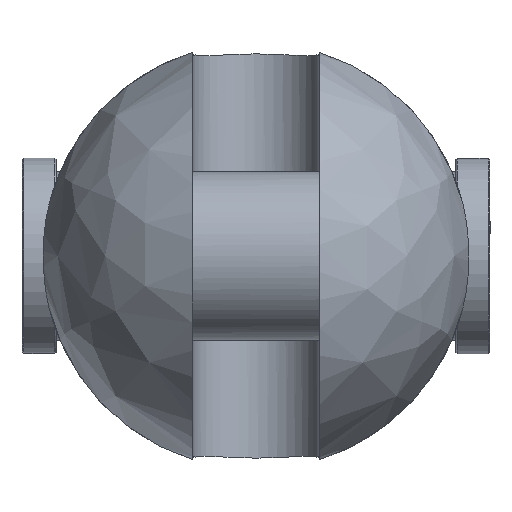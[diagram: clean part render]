
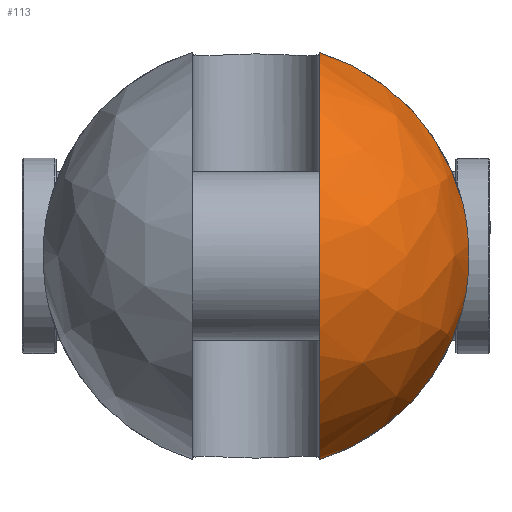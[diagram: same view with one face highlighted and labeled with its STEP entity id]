
A CAD part, left-side view. The second image highlights one B-rep face of the part: STEP entity #113.
In plain terms, the highlighted free-form (B-spline) face has degree [2, 2] with [9, 5] control points.
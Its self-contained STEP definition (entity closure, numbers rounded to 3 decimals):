
#113=ADVANCED_FACE('',(#200),#1527,.T.);
#200=FACE_OUTER_BOUND('',#299,.T.);
#299=EDGE_LOOP('',(#741,#742,#743,#744));
#741=ORIENTED_EDGE('',*,*,#998,.T.);
#742=ORIENTED_EDGE('',*,*,#995,.F.);
#743=ORIENTED_EDGE('',*,*,#1015,.T.);
#744=ORIENTED_EDGE('',*,*,#987,.F.);
#987=EDGE_CURVE('',#1418,#1419,#1249,.T.);
#995=EDGE_CURVE('',#1426,#1427,#1250,.T.);
#998=EDGE_CURVE('',#1418,#1427,#1252,.T.);
#1015=EDGE_CURVE('',#1426,#1419,#1123,.T.);
#1123=B_SPLINE_CURVE_WITH_KNOTS('',3,(#3624,#3625,#3626,#3627,#3628,#3629,
#3630,#3631,#3632,#3633,#3634,#3635,#3636,#3637),.UNSPECIFIED.,.F.,.F.,
(4,2,2,2,2,2,4),(0.,3.042,9.365,15.688,
22.012,28.335,31.377),.UNSPECIFIED.);
#1249=(
BOUNDED_CURVE()
B_SPLINE_CURVE(2,(#3474,#3475,#3476),.UNSPECIFIED.,.F.,.F.)
B_SPLINE_CURVE_WITH_KNOTS((3,3),(0.,63.626),.UNSPECIFIED.)
CURVE()
GEOMETRIC_REPRESENTATION_ITEM()
RATIONAL_B_SPLINE_CURVE((1.,0.871,1.))
REPRESENTATION_ITEM('')
);
#1250=(
BOUNDED_CURVE()
B_SPLINE_CURVE(2,(#3531,#3532,#3533),.UNSPECIFIED.,.F.,.F.)
B_SPLINE_CURVE_WITH_KNOTS((3,3),(0.,63.626),.UNSPECIFIED.)
CURVE()
GEOMETRIC_REPRESENTATION_ITEM()
RATIONAL_B_SPLINE_CURVE((1.,0.871,1.))
REPRESENTATION_ITEM('')
);
#1252=(
BOUNDED_CURVE()
B_SPLINE_CURVE(2,(#3539,#3540,#3541,#3542,#3543),.UNSPECIFIED.,.F.,.F.)
B_SPLINE_CURVE_WITH_KNOTS((3,2,3),(-185.906,-92.953,
0.),.UNSPECIFIED.)
CURVE()
GEOMETRIC_REPRESENTATION_ITEM()
RATIONAL_B_SPLINE_CURVE((1.,0.707,1.,0.707,1.))
REPRESENTATION_ITEM('')
);
#1418=VERTEX_POINT('',#3274);
#1419=VERTEX_POINT('',#3275);
#1426=VERTEX_POINT('',#3282);
#1427=VERTEX_POINT('',#3283);
#1527=(
BOUNDED_SURFACE()
B_SPLINE_SURFACE(2,2,((#3146,#3147,#3148,#3149,#3150),(#3151,#3152,#3153,
#3154,#3155),(#3156,#3157,#3158,#3159,#3160),(#3161,#3162,#3163,#3164,#3165),
(#3166,#3167,#3168,#3169,#3170),(#3171,#3172,#3173,#3174,#3175),(#3176,
#3177,#3178,#3179,#3180),(#3181,#3182,#3183,#3184,#3185),(#3186,#3187,#3188,
#3189,#3190)),.UNSPECIFIED.,.T.,.F.,.F.)
B_SPLINE_SURFACE_WITH_KNOTS((3,2,2,2,3),(3,2,3),(0.,97.389,194.779,
292.168,389.557),(0.,97.389,194.779),
 .UNSPECIFIED.)
GEOMETRIC_REPRESENTATION_ITEM()
RATIONAL_B_SPLINE_SURFACE(((1.,0.707,1.,0.707,1.),
(0.707,0.5,0.707,0.5,0.707),(1.,0.707,
1.,0.707,1.),(0.707,0.5,0.707,0.5,0.707),
(1.,0.707,1.,0.707,1.),(0.707,0.5,0.707,
0.5,0.707),(1.,0.707,1.,0.707,1.),(0.707,
0.5,0.707,0.5,0.707),(1.,0.707,1.,0.707,
1.)))
REPRESENTATION_ITEM('')
SURFACE()
);
#3146=CARTESIAN_POINT('',(-87.5,0.,0.));
#3147=CARTESIAN_POINT('',(-87.5,62.,0.));
#3148=CARTESIAN_POINT('',(-25.5,62.,0.));
#3149=CARTESIAN_POINT('',(36.5,62.,0.));
#3150=CARTESIAN_POINT('',(36.5,0.,0.));
#3151=CARTESIAN_POINT('',(-87.5,0.,0.));
#3152=CARTESIAN_POINT('',(-87.5,62.,62.));
#3153=CARTESIAN_POINT('',(-25.5,62.,62.));
#3154=CARTESIAN_POINT('',(36.5,62.,62.));
#3155=CARTESIAN_POINT('',(36.5,0.,0.));
#3156=CARTESIAN_POINT('',(-87.5,0.,0.));
#3157=CARTESIAN_POINT('',(-87.5,0.,62.));
#3158=CARTESIAN_POINT('',(-25.5,0.,62.));
#3159=CARTESIAN_POINT('',(36.5,0.,62.));
#3160=CARTESIAN_POINT('',(36.5,0.,0.));
#3161=CARTESIAN_POINT('',(-87.5,0.,0.));
#3162=CARTESIAN_POINT('',(-87.5,-62.,62.));
#3163=CARTESIAN_POINT('',(-25.5,-62.,62.));
#3164=CARTESIAN_POINT('',(36.5,-62.,62.));
#3165=CARTESIAN_POINT('',(36.5,0.,0.));
#3166=CARTESIAN_POINT('',(-87.5,0.,0.));
#3167=CARTESIAN_POINT('',(-87.5,-62.,0.));
#3168=CARTESIAN_POINT('',(-25.5,-62.,0.));
#3169=CARTESIAN_POINT('',(36.5,-62.,0.));
#3170=CARTESIAN_POINT('',(36.5,0.,0.));
#3171=CARTESIAN_POINT('',(-87.5,0.,0.));
#3172=CARTESIAN_POINT('',(-87.5,-62.,-62.));
#3173=CARTESIAN_POINT('',(-25.5,-62.,-62.));
#3174=CARTESIAN_POINT('',(36.5,-62.,-62.));
#3175=CARTESIAN_POINT('',(36.5,0.,0.));
#3176=CARTESIAN_POINT('',(-87.5,0.,0.));
#3177=CARTESIAN_POINT('',(-87.5,0.,-62.));
#3178=CARTESIAN_POINT('',(-25.5,0.,-62.));
#3179=CARTESIAN_POINT('',(36.5,0.,-62.));
#3180=CARTESIAN_POINT('',(36.5,0.,0.));
#3181=CARTESIAN_POINT('',(-87.5,0.,0.));
#3182=CARTESIAN_POINT('',(-87.5,62.,-62.));
#3183=CARTESIAN_POINT('',(-25.5,62.,-62.));
#3184=CARTESIAN_POINT('',(36.5,62.,-62.));
#3185=CARTESIAN_POINT('',(36.5,0.,0.));
#3186=CARTESIAN_POINT('',(-87.5,0.,0.));
#3187=CARTESIAN_POINT('',(-87.5,62.,0.));
#3188=CARTESIAN_POINT('',(-25.5,62.,0.));
#3189=CARTESIAN_POINT('',(36.5,62.,0.));
#3190=CARTESIAN_POINT('',(36.5,0.,0.));
#3274=CARTESIAN_POINT('',(-25.5,-18.5,59.176));
#3275=CARTESIAN_POINT('',(-25.5,-60.2,14.832));
#3282=CARTESIAN_POINT('',(-25.5,-60.2,-14.832));
#3283=CARTESIAN_POINT('',(-25.5,-18.5,-59.176));
#3474=CARTESIAN_POINT('',(-25.5,-18.5,59.176));
#3475=CARTESIAN_POINT('',(-25.5,-51.842,48.752));
#3476=CARTESIAN_POINT('',(-25.5,-60.2,14.832));
#3531=CARTESIAN_POINT('',(-25.5,-60.2,-14.832));
#3532=CARTESIAN_POINT('',(-25.5,-51.842,-48.752));
#3533=CARTESIAN_POINT('',(-25.5,-18.5,-59.176));
#3539=CARTESIAN_POINT('',(-25.5,-18.5,59.176));
#3540=CARTESIAN_POINT('',(-84.676,-18.5,59.176));
#3541=CARTESIAN_POINT('',(-84.676,-18.5,0.));
#3542=CARTESIAN_POINT('',(-84.676,-18.5,-59.176));
#3543=CARTESIAN_POINT('',(-25.5,-18.5,-59.176));
#3624=CARTESIAN_POINT('',(-25.5,-60.2,-14.832));
#3625=CARTESIAN_POINT('',(-26.004,-60.413,-13.966));
#3626=CARTESIAN_POINT('',(-26.467,-60.608,-13.068));
#3627=CARTESIAN_POINT('',(-27.748,-61.146,-10.232));
#3628=CARTESIAN_POINT('',(-28.412,-61.421,-8.211));
#3629=CARTESIAN_POINT('',(-29.288,-61.784,-4.108));
#3630=CARTESIAN_POINT('',(-29.5,-61.871,-2.027));
#3631=CARTESIAN_POINT('',(-29.5,-61.871,2.027));
#3632=CARTESIAN_POINT('',(-29.288,-61.784,4.108));
#3633=CARTESIAN_POINT('',(-28.412,-61.421,8.211));
#3634=CARTESIAN_POINT('',(-27.748,-61.146,10.232));
#3635=CARTESIAN_POINT('',(-26.467,-60.608,13.068));
#3636=CARTESIAN_POINT('',(-26.004,-60.413,13.966));
#3637=CARTESIAN_POINT('',(-25.5,-60.2,14.832));
